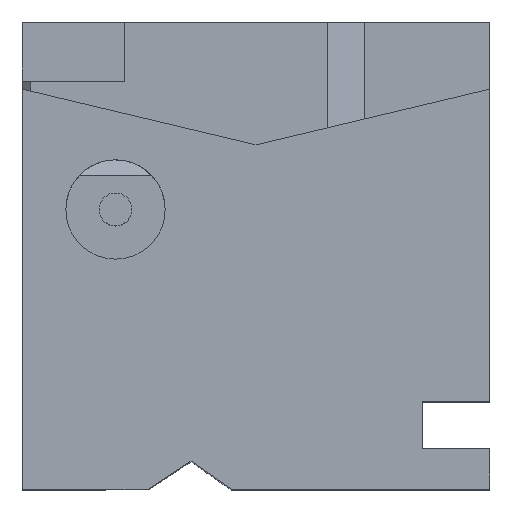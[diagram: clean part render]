
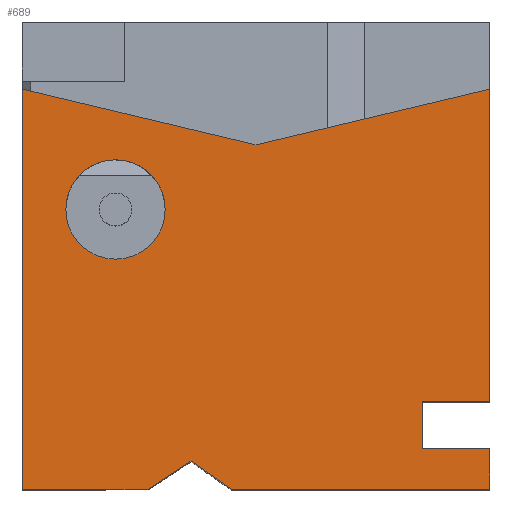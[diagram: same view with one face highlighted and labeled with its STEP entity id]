
A CAD part, top view. The second image highlights one B-rep face of the part: STEP entity #689.
In plain terms, the highlighted planar face has unit normal (0, 0, 1).
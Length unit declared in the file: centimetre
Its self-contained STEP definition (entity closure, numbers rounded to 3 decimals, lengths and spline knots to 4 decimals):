
#15 = LINE ( 'NONE', #256, #295 ) ;
#35 = LINE ( 'NONE', #1275, #805 ) ;
#48 = VERTEX_POINT ( 'NONE', #431 ) ;
#54 = EDGE_CURVE ( 'NONE', #430, #684, #1113, .T. ) ;
#63 = AXIS2_PLACEMENT_3D ( 'NONE', #473, #487, #957 ) ;
#67 = CARTESIAN_POINT ( 'NONE',  ( 199.4604, 598.5766, 1000. ) ) ;
#86 = DIRECTION ( 'NONE',  ( 0.973, 0.231, 0. ) ) ;
#97 = EDGE_CURVE ( 'NONE', #613, #145, #710, .T. ) ;
#143 = EDGE_CURVE ( 'NONE', #600, #287, #806, .T. ) ;
#145 = VERTEX_POINT ( 'NONE', #1329 ) ;
#167 = VECTOR ( 'NONE', #1143, 100. ) ;
#180 = DIRECTION ( 'NONE',  ( 0., -1., 0. ) ) ;
#184 = ORIENTED_EDGE ( 'NONE', *, *, #1378, .T. ) ;
#191 = VECTOR ( 'NONE', #970, 100. ) ;
#194 = VECTOR ( 'NONE', #522, 100. ) ;
#196 = DIRECTION ( 'NONE',  ( 0., 0., 1. ) ) ;
#210 = CARTESIAN_POINT ( 'NONE',  ( 1000., 855.853, 1000. ) ) ;
#214 = CARTESIAN_POINT ( 'NONE',  ( 1000., 187.7023, 1000. ) ) ;
#220 = DIRECTION ( 'NONE',  ( 0., 1., 0. ) ) ;
#221 = EDGE_CURVE ( 'NONE', #537, #768, #15, .T. ) ;
#226 = CARTESIAN_POINT ( 'NONE',  ( 500., 736.9836, 1000. ) ) ;
#230 = VECTOR ( 'NONE', #180, 100. ) ;
#253 = ORIENTED_EDGE ( 'NONE', *, *, #1002, .F. ) ;
#256 = CARTESIAN_POINT ( 'NONE',  ( 855.6008, 187.7023, 1000. ) ) ;
#287 = VERTEX_POINT ( 'NONE', #210 ) ;
#290 = LINE ( 'NONE', #312, #194 ) ;
#295 = VECTOR ( 'NONE', #726, 100. ) ;
#301 = CIRCLE ( 'NONE', #1164, 106.2283 ) ;
#310 = ORIENTED_EDGE ( 'NONE', *, *, #467, .F. ) ;
#312 = CARTESIAN_POINT ( 'NONE',  ( 0., 0., 1000. ) ) ;
#319 = AXIS2_PLACEMENT_3D ( 'NONE', #789, #196, #450 ) ;
#350 = VECTOR ( 'NONE', #890, 100. ) ;
#379 = CARTESIAN_POINT ( 'NONE',  ( 0., 855.853, 1000. ) ) ;
#407 = ORIENTED_EDGE ( 'NONE', *, *, #730, .F. ) ;
#411 = CARTESIAN_POINT ( 'NONE',  ( 0., 0., 1000. ) ) ;
#425 = CARTESIAN_POINT ( 'NONE',  ( 0., 1000., 1000. ) ) ;
#430 = VERTEX_POINT ( 'NONE', #619 ) ;
#431 = CARTESIAN_POINT ( 'NONE',  ( 360.9951, 60.1687, 1000. ) ) ;
#444 = EDGE_LOOP ( 'NONE', ( #1359, #1338, #184, #1364, #310, #253, #1104, #1014, #967, #407, #1490, #997 ) ) ;
#448 = LINE ( 'NONE', #411, #167 ) ;
#450 = DIRECTION ( 'NONE',  ( 1., 0., 0. ) ) ;
#467 = EDGE_CURVE ( 'NONE', #48, #470, #874, .T. ) ;
#470 = VERTEX_POINT ( 'NONE', #511 ) ;
#473 = CARTESIAN_POINT ( 'NONE',  ( 0., 0., 1000. ) ) ;
#480 = LINE ( 'NONE', #949, #1388 ) ;
#487 = DIRECTION ( 'NONE',  ( 0., 0., 1. ) ) ;
#493 = CARTESIAN_POINT ( 'NONE',  ( 0., 0., 1000. ) ) ;
#511 = CARTESIAN_POINT ( 'NONE',  ( 269.3652, 0., 1000. ) ) ;
#522 = DIRECTION ( 'NONE',  ( 1., 0., 0. ) ) ;
#537 = VERTEX_POINT ( 'NONE', #214 ) ;
#591 = EDGE_CURVE ( 'NONE', #1531, #613, #448, .T. ) ;
#594 = EDGE_CURVE ( 'NONE', #684, #430, #301, .T. ) ;
#600 = VERTEX_POINT ( 'NONE', #226 ) ;
#613 = VERTEX_POINT ( 'NONE', #1306 ) ;
#619 = CARTESIAN_POINT ( 'NONE',  ( 305.6886, 598.5766, 1000. ) ) ;
#652 = LINE ( 'NONE', #1374, #350 ) ;
#672 = DIRECTION ( 'NONE',  ( 0.973, -0.231, 0. ) ) ;
#677 = DIRECTION ( 'NONE',  ( 0., 0., 1. ) ) ;
#682 = CARTESIAN_POINT ( 'NONE',  ( 855.6008, 87.3574, 1000. ) ) ;
#684 = VERTEX_POINT ( 'NONE', #840 ) ;
#686 = CARTESIAN_POINT ( 'NONE',  ( 1000., 855.853, 1000. ) ) ;
#688 = CARTESIAN_POINT ( 'NONE',  ( 446.8305, 0., 1000. ) ) ;
#689 = ADVANCED_FACE ( 'NONE', ( #1316, #1454 ), #1059, .T. ) ;
#710 = LINE ( 'NONE', #1073, #1246 ) ;
#726 = DIRECTION ( 'NONE',  ( -1., 0., 0. ) ) ;
#730 = EDGE_CURVE ( 'NONE', #768, #894, #480, .T. ) ;
#755 = EDGE_CURVE ( 'NONE', #1045, #470, #290, .T. ) ;
#768 = VERTEX_POINT ( 'NONE', #1258 ) ;
#775 = EDGE_CURVE ( 'NONE', #894, #145, #652, .T. ) ;
#789 = CARTESIAN_POINT ( 'NONE',  ( 199.4604, 598.5766, 1000. ) ) ;
#805 = VECTOR ( 'NONE', #672, 100. ) ;
#806 = LINE ( 'NONE', #686, #1296 ) ;
#817 = DIRECTION ( 'NONE',  ( 1., 0., 0. ) ) ;
#840 = CARTESIAN_POINT ( 'NONE',  ( 93.2321, 598.5766, 1000. ) ) ;
#872 = VECTOR ( 'NONE', #1184, 100. ) ;
#874 = LINE ( 'NONE', #1340, #191 ) ;
#890 = DIRECTION ( 'NONE',  ( 1., 0., 0. ) ) ;
#894 = VERTEX_POINT ( 'NONE', #682 ) ;
#904 = LINE ( 'NONE', #425, #230 ) ;
#925 = LINE ( 'NONE', #1292, #872 ) ;
#949 = CARTESIAN_POINT ( 'NONE',  ( 855.6008, 87.3574, 1000. ) ) ;
#955 = ORIENTED_EDGE ( 'NONE', *, *, #54, .F. ) ;
#957 = DIRECTION ( 'NONE',  ( 1., 0., 0. ) ) ;
#967 = ORIENTED_EDGE ( 'NONE', *, *, #775, .F. ) ;
#970 = DIRECTION ( 'NONE',  ( -0.836, -0.549, 0. ) ) ;
#996 = VECTOR ( 'NONE', #1264, 100. ) ;
#997 = ORIENTED_EDGE ( 'NONE', *, *, #1327, .T. ) ;
#1002 = EDGE_CURVE ( 'NONE', #1531, #48, #925, .T. ) ;
#1014 = ORIENTED_EDGE ( 'NONE', *, *, #97, .T. ) ;
#1016 = LINE ( 'NONE', #1505, #996 ) ;
#1045 = VERTEX_POINT ( 'NONE', #493 ) ;
#1059 = PLANE ( 'NONE',  #63 ) ;
#1073 = CARTESIAN_POINT ( 'NONE',  ( 1000., 1000., 1000. ) ) ;
#1104 = ORIENTED_EDGE ( 'NONE', *, *, #591, .T. ) ;
#1113 = CIRCLE ( 'NONE', #319, 106.2283 ) ;
#1126 = VERTEX_POINT ( 'NONE', #379 ) ;
#1143 = DIRECTION ( 'NONE',  ( 1., 0., 0. ) ) ;
#1164 = AXIS2_PLACEMENT_3D ( 'NONE', #67, #677, #817 ) ;
#1184 = DIRECTION ( 'NONE',  ( -0.819, 0.574, 0. ) ) ;
#1210 = EDGE_CURVE ( 'NONE', #1126, #600, #35, .T. ) ;
#1241 = ORIENTED_EDGE ( 'NONE', *, *, #594, .F. ) ;
#1246 = VECTOR ( 'NONE', #220, 100. ) ;
#1258 = CARTESIAN_POINT ( 'NONE',  ( 855.6008, 187.7023, 1000. ) ) ;
#1264 = DIRECTION ( 'NONE',  ( 0., 1., 0. ) ) ;
#1275 = CARTESIAN_POINT ( 'NONE',  ( 500., 736.9836, 1000. ) ) ;
#1292 = CARTESIAN_POINT ( 'NONE',  ( 360.9951, 60.1687, 1000. ) ) ;
#1296 = VECTOR ( 'NONE', #86, 100. ) ;
#1306 = CARTESIAN_POINT ( 'NONE',  ( 1000., 0., 1000. ) ) ;
#1316 = FACE_OUTER_BOUND ( 'NONE', #444, .T. ) ;
#1327 = EDGE_CURVE ( 'NONE', #537, #287, #1016, .T. ) ;
#1329 = CARTESIAN_POINT ( 'NONE',  ( 1000., 87.3574, 1000. ) ) ;
#1338 = ORIENTED_EDGE ( 'NONE', *, *, #1210, .F. ) ;
#1340 = CARTESIAN_POINT ( 'NONE',  ( 269.3652, 0., 1000. ) ) ;
#1359 = ORIENTED_EDGE ( 'NONE', *, *, #143, .F. ) ;
#1364 = ORIENTED_EDGE ( 'NONE', *, *, #755, .T. ) ;
#1374 = CARTESIAN_POINT ( 'NONE',  ( 855.6008, 87.3574, 1000. ) ) ;
#1378 = EDGE_CURVE ( 'NONE', #1126, #1045, #904, .T. ) ;
#1388 = VECTOR ( 'NONE', #1447, 100. ) ;
#1447 = DIRECTION ( 'NONE',  ( 0., -1., 0. ) ) ;
#1454 = FACE_BOUND ( 'NONE', #1504, .T. ) ;
#1490 = ORIENTED_EDGE ( 'NONE', *, *, #221, .F. ) ;
#1504 = EDGE_LOOP ( 'NONE', ( #955, #1241 ) ) ;
#1505 = CARTESIAN_POINT ( 'NONE',  ( 1000., 1000., 1000. ) ) ;
#1531 = VERTEX_POINT ( 'NONE', #688 ) ;
